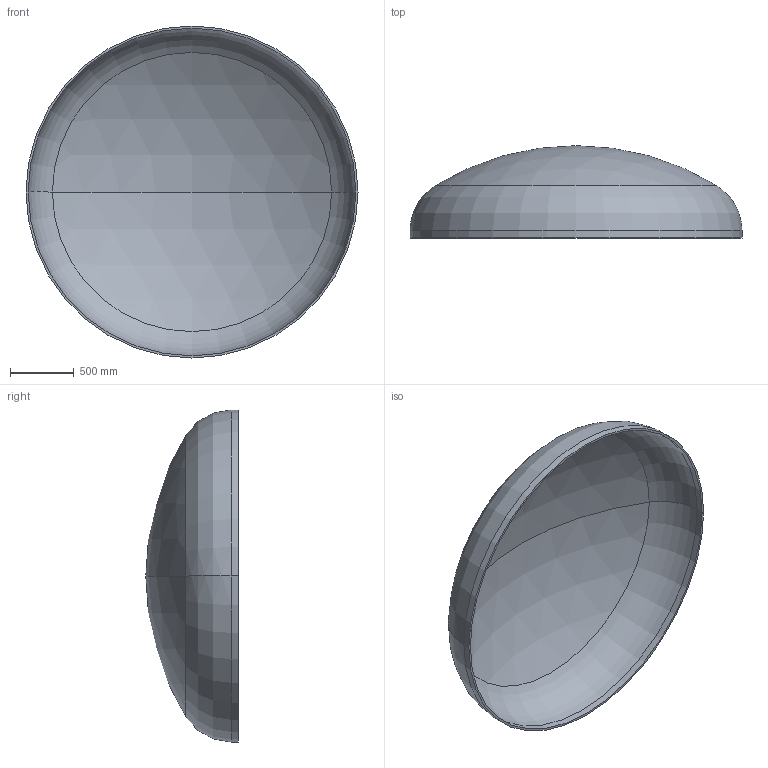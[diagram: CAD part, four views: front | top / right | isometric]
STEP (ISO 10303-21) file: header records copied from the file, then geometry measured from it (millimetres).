
FILE_DESCRIPTION (( 'STEP AP203' ), '1' );
FILE_NAME ('DIN 28013 Korbbogenform_-_Boden DIN 28013 - 2600 x 55 - I - s=17.step', '2016-07-01T15:56:52', ( '' ), ( '' ), 'SwSTEP 2.0', 'SolidWorks 2013', '' );
FILE_SCHEMA (( 'CONFIG_CONTROL_DESIGN' ));
Length unit declared in the file: millimetre
Products named in the file (1): DIN 28013 Korbbogenform_-_Boden DIN 28013 - 2600 x 55 - I - s=17
Bounding box: 2600 x 722.77 x 2600 mm (x, y, z)
Volume: 131495167.8 mm3; surface area: 15608569.5 mm2
Topology: 1 solids, 1 shells, 13 faces, 24 edges, 14 vertices
Faces by surface type: torus 4, cylinder 4, sphere 4, plane 1
Entity records: 407 total; most frequent: DIRECTION 72, CARTESIAN_POINT 52, ORIENTED_EDGE 48, AXIS2_PLACEMENT_3D 34, EDGE_CURVE 24, CIRCLE 20, EDGE_LOOP 14, VERTEX_POINT 14
